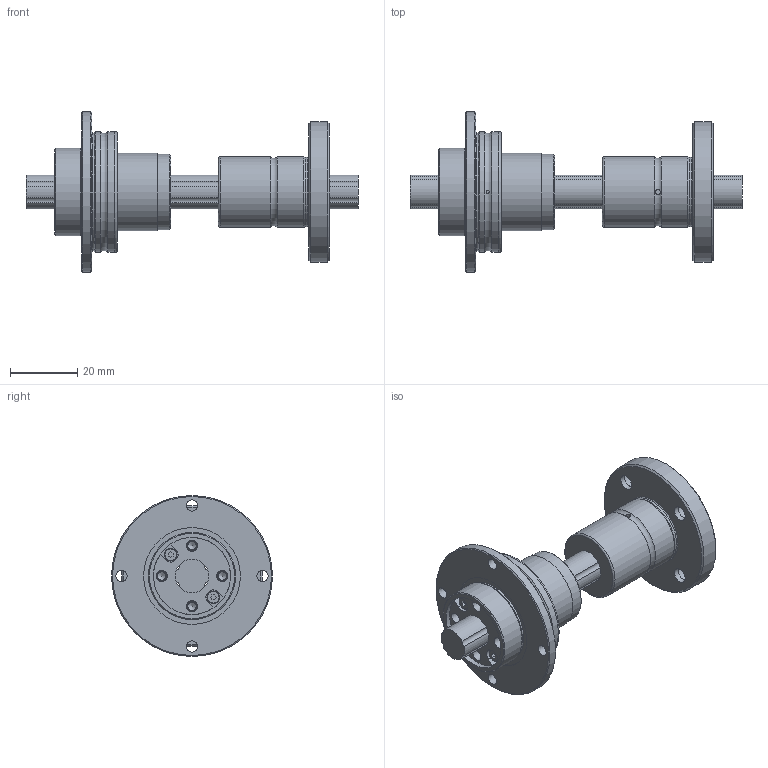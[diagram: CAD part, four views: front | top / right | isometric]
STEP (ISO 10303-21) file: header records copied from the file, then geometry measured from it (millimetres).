
FILE_DESCRIPTION(/* description */ ('STEP AP203'),/* implementation_level */ '2;1');
FILE_NAME(/* name */ 'NS1015A+99L',/* time_stamp */ '2025-06-11T08:45:30+02:00',/* author */ ('License CC BY-ND 4.0'),/* organization */ ('CADENAS'),/* preprocessor_version */ 'ST-DEVELOPER v19.3',/* originating_system */ 'PARTsolutions',/* authorisation */ ' ');
FILE_SCHEMA (('CONFIG_CONTROL_DESIGN'));
Length unit declared in the file: millimetre
Products named in the file (4): NS1015A+99L; NS 1015A+99L Shaft; NS 1015ASpline_b; NS 1015ASpline
Assembly tree (3 placements, depth 2):
  NS1015A+99L
    NS 1015A+99L Shaft
    NS 1015ASpline_b
    NS 1015ASpline
Bounding box: 99 x 48 x 48 mm (x, y, z)
Volume: 41529.9 mm3; surface area: 18419.8 mm2
Topology: 3 solids, 3 shells, 132 faces, 278 edges, 178 vertices
Faces by surface type: cylinder 54, plane 51, cone 16, torus 11
Full cylindrical faces by diameter (mm): 0.9 x1, 1.5 x2, 2.459 x4, 3.4 x8, 3.8 x2, 4.5 x4, 8 x4, 10 x2, 20.7 x1, 21 x2, 22.5 x1, 23 x2, 25.2 x1, 25.3 x1, 26 x2, 28.9 x2, 35.4 x1, 36 x2, 42 x1, 48 x1
Entity records: 3240 total; most frequent: DIRECTION 588, CARTESIAN_POINT 524, ORIENTED_EDGE 382, AXIS2_PLACEMENT_3D 264, FACE_BOUND 254, EDGE_LOOP 250, EDGE_CURVE 191, VERTEX_POINT 167
